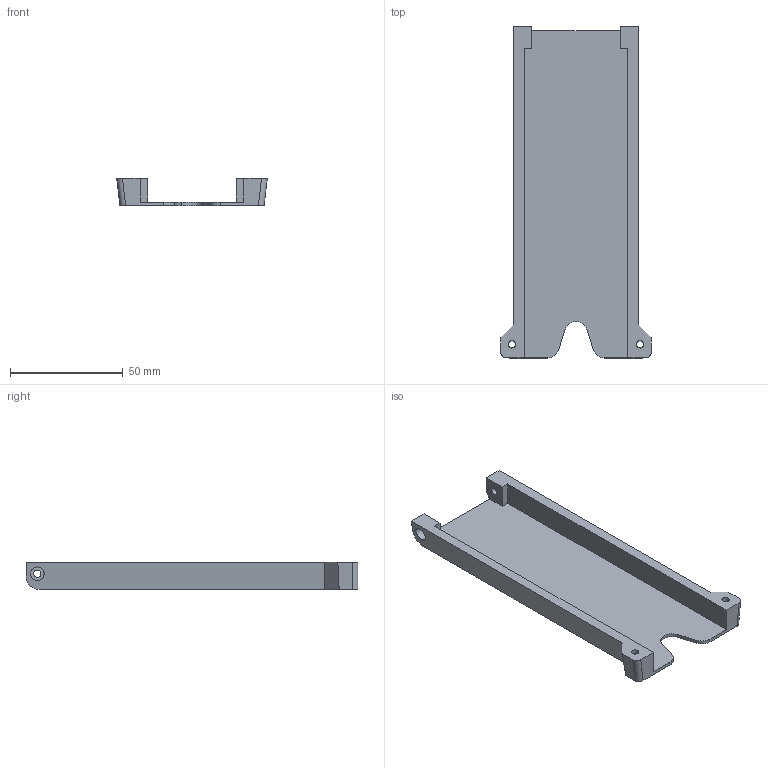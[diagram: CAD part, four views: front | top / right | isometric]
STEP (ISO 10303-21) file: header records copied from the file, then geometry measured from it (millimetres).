
FILE_DESCRIPTION(/* description */ (''),/* implementation_level */ '2;1');
FILE_NAME(/* name */ '1-25-1 Battery holder bottom.step',/* time_stamp */ '2025-05-10T21:35:12+02:00',/* author */ (''),/* organization */ (''),/* preprocessor_version */ 'ST-DEVELOPER v20.1',/* originating_system */ 'Autodesk Translation Framework v14.4.0.0',/* authorisation */ '');
FILE_SCHEMA (('AUTOMOTIVE_DESIGN { 1 0 10303 214 3 1 1 }'));
Length unit declared in the file: millimetre
Products named in the file (1): 1-25-1 Battery holder bottom
Bounding box: 66.6 x 146.9 x 12 mm (x, y, z)
Volume: 23979.8 mm3; surface area: 22936.6 mm2
Topology: 1 solids, 1 shells, 44 faces, 115 edges, 75 vertices
Faces by surface type: plane 28, cylinder 14, cone 2
Full cylindrical faces by diameter (mm): 3.2 x4, 6 x4
Entity records: 1408 total; most frequent: DIRECTION 238, CARTESIAN_POINT 235, ORIENTED_EDGE 230, EDGE_CURVE 115, LINE 82, VECTOR 82, AXIS2_PLACEMENT_3D 78, VERTEX_POINT 75
